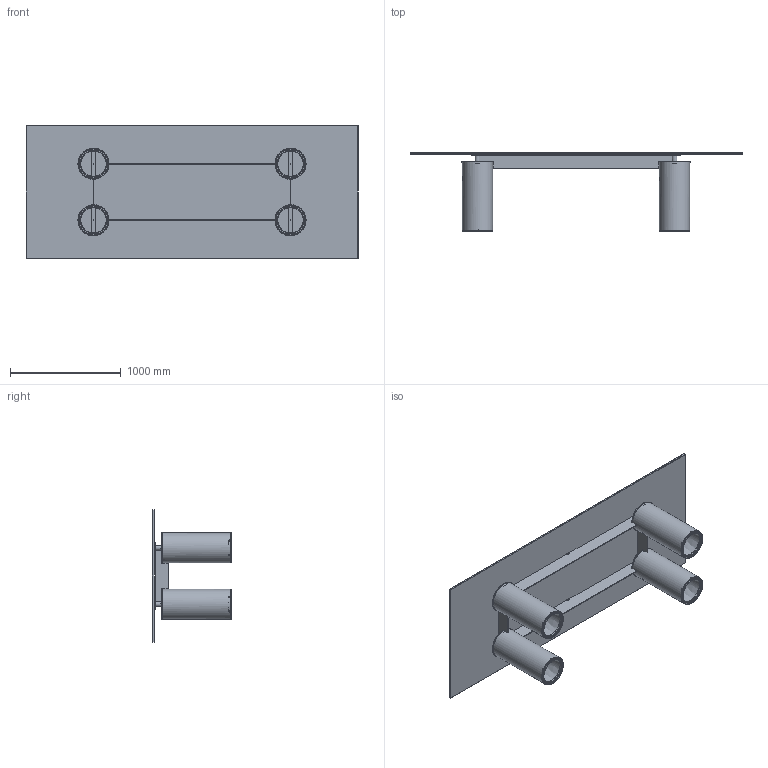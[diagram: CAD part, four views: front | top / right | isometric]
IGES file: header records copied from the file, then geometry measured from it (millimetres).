
Start section: SolidWorks IGES file using NURBS representation for surfaces
Global section: file name: \\fs\Gruppi\Tecnico\UFFICIO TECNICO\PROGETTI in SVILUPPO\2021\SERENISSIMO\3D\SERENISSIMO - 300X120.IGS; native system: SolidWorks 2019; preprocessor: SolidWorks 2019; author: prell; date: 210715.113831; units: millimetre
Bounding box: 3000 x 714 x 1200 mm (x, y, z)
Surface area: 13677849.6 mm2 (no closed solid volume)
Topology: 0 solids, 0 shells, 2090 faces, 11738 edges, 11580 vertices
Faces by surface type: bspline 2090
